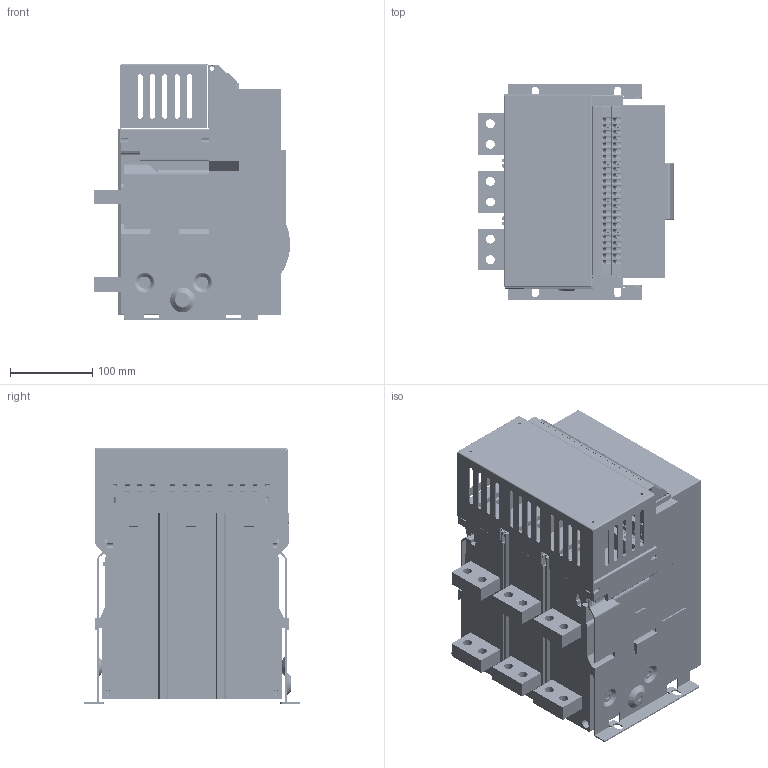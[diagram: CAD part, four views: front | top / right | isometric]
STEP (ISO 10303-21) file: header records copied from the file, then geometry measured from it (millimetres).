
FILE_DESCRIPTION (( 'STEP AP203' ), '1' );
FILE_NAME ('1600 F 3P PD.24.03.01.STEP', '2024-06-17T12:55:22', ( '' ), ( '' ), 'SwSTEP 2.0', 'SolidWorks 2022', '' );
FILE_SCHEMA (( 'CONFIG_CONTROL_DESIGN' ));
Products named in the file (9): 1600-3P基座01.stp; 1600-3P底板01.stp; 1600 固定式 3消弧罩.stp; 1600 固定式 左侧板.stp; 1600 F 3P PD.24.03.01; 1600-外壳.stp; 1600 固定式 二次端子.stp; 1600 F 3P.stp; 1600 固定式 右侧板.stp
Assembly tree (8 placements, depth 3):
  1600 F 3P PD.24.03.01
    1600 F 3P.stp
      1600-3P基座01.stp
      1600-3P底板01.stp
      1600 固定式 右侧板.stp
      1600 固定式 左侧板.stp
      1600 固定式 二次端子.stp
      1600 固定式 3消弧罩.stp
      1600-外壳.stp
Bounding box: 238.1 x 263 x 310 mm (x, y, z)
Volume: 5483290 mm3; surface area: 1199889.7 mm2
Topology: 70 solids, 173 shells, 13677 faces, 38973 edges, 25606 vertices
Faces by surface type: plane 9714, cylinder 2710, cone 787, bspline 275, torus 177, sphere 14
Entity records: 466845 total; most frequent: CARTESIAN_POINT 105498, ORIENTED_EDGE 77910, DIRECTION 72760, EDGE_CURVE 38955, VECTOR 27962, LINE 27962, VERTEX_POINT 25606, AXIS2_PLACEMENT_3D 22399
